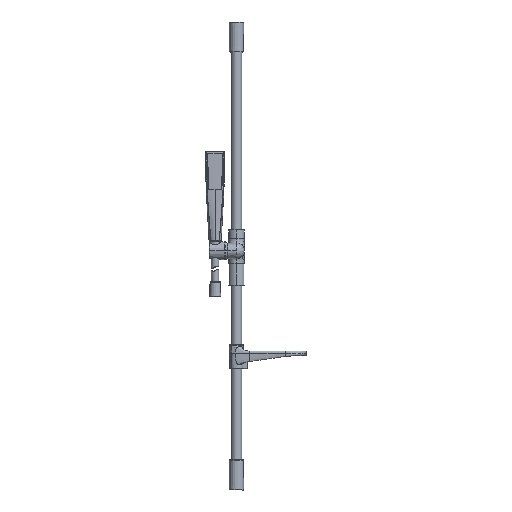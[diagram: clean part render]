
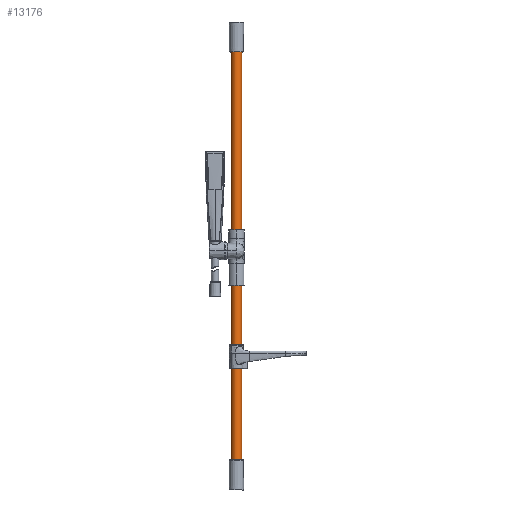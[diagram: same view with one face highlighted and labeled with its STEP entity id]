
A CAD part, top view. The second image highlights one B-rep face of the part: STEP entity #13176.
In plain terms, the highlighted cylindrical face has radius 11 mm (diameter 22 mm), a partial arc.
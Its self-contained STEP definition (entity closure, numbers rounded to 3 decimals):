
#69 = DIRECTION ( 'NONE',  ( -1., 0., 0. ) ) ;
#825 = ORIENTED_EDGE ( 'NONE', *, *, #24017, .T. ) ;
#1673 = LINE ( 'NONE', #15788, #23095 ) ;
#4040 = VERTEX_POINT ( 'NONE', #7619 ) ;
#5341 = DIRECTION ( 'NONE',  ( -1., 0., 0. ) ) ;
#5431 = EDGE_CURVE ( 'NONE', #14096, #4040, #1673, .T. ) ;
#6057 = CARTESIAN_POINT ( 'NONE',  ( -11., -59.569, 0. ) ) ;
#6206 = EDGE_CURVE ( 'NONE', #14096, #34966, #10129, .T. ) ;
#6394 = LINE ( 'NONE', #45777, #8636 ) ;
#7619 = CARTESIAN_POINT ( 'NONE',  ( 11., -59.569, 0. ) ) ;
#8254 = DIRECTION ( 'NONE',  ( 0., -1., 0. ) ) ;
#8636 = VECTOR ( 'NONE', #20428, 1000. ) ;
#10129 = CIRCLE ( 'NONE', #44294, 11. ) ;
#13176 = ADVANCED_FACE ( 'NONE', ( #15074 ), #21846, .T. ) ;
#13481 = EDGE_LOOP ( 'NONE', ( #19141, #21040, #36036, #825 ) ) ;
#14096 = VERTEX_POINT ( 'NONE', #18203 ) ;
#15074 = FACE_OUTER_BOUND ( 'NONE', #13481, .T. ) ;
#15472 = CIRCLE ( 'NONE', #26040, 11. ) ;
#15693 = DIRECTION ( 'NONE',  ( 0., -1., 0. ) ) ;
#15788 = CARTESIAN_POINT ( 'NONE',  ( 11., 905.431, 0. ) ) ;
#18203 = CARTESIAN_POINT ( 'NONE',  ( 11., 905.431, 0. ) ) ;
#18746 = VERTEX_POINT ( 'NONE', #6057 ) ;
#19141 = ORIENTED_EDGE ( 'NONE', *, *, #5431, .F. ) ;
#20428 = DIRECTION ( 'NONE',  ( 0., -1., 0. ) ) ;
#21040 = ORIENTED_EDGE ( 'NONE', *, *, #6206, .T. ) ;
#21644 = CARTESIAN_POINT ( 'NONE',  ( 0., -59.569, 0. ) ) ;
#21846 = CYLINDRICAL_SURFACE ( 'NONE', #35611, 11. ) ;
#23095 = VECTOR ( 'NONE', #8254, 1000. ) ;
#24017 = EDGE_CURVE ( 'NONE', #18746, #4040, #15472, .T. ) ;
#25111 = DIRECTION ( 'NONE',  ( 0., 1., 0. ) ) ;
#26040 = AXIS2_PLACEMENT_3D ( 'NONE', #21644, #25111, #69 ) ;
#31205 = EDGE_CURVE ( 'NONE', #34966, #18746, #6394, .T. ) ;
#33970 = CARTESIAN_POINT ( 'NONE',  ( 0., 905.431, 0. ) ) ;
#34100 = CARTESIAN_POINT ( 'NONE',  ( 0., 905.431, 0. ) ) ;
#34966 = VERTEX_POINT ( 'NONE', #41323 ) ;
#35611 = AXIS2_PLACEMENT_3D ( 'NONE', #34100, #15693, #37420 ) ;
#36036 = ORIENTED_EDGE ( 'NONE', *, *, #31205, .T. ) ;
#37420 = DIRECTION ( 'NONE',  ( -1., 0., 0. ) ) ;
#41323 = CARTESIAN_POINT ( 'NONE',  ( -11., 905.431, 0. ) ) ;
#44294 = AXIS2_PLACEMENT_3D ( 'NONE', #33970, #44848, #5341 ) ;
#44848 = DIRECTION ( 'NONE',  ( 0., -1., 0. ) ) ;
#45777 = CARTESIAN_POINT ( 'NONE',  ( -11., 905.431, 0. ) ) ;
